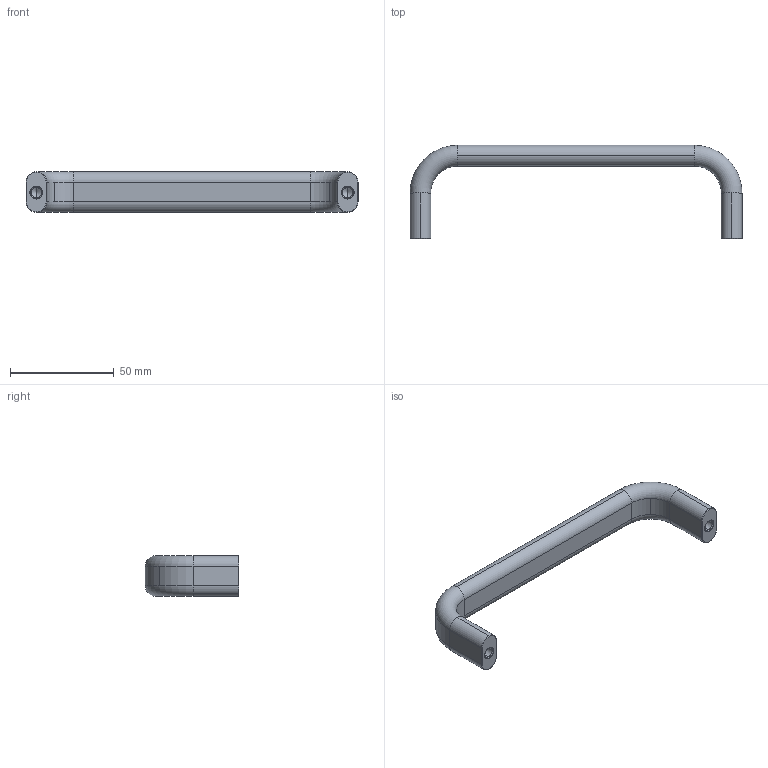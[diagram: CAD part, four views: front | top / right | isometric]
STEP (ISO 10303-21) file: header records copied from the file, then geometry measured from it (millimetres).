
FILE_DESCRIPTION((''),'2;1');
FILE_NAME('c:\wix\Knobs\7892\7892.W115.stp','2003-04-04T16:42:09',('joanc'),(''),'Autodesk Inventor (tm) 5.3','Autodesk Inventor (tm) 5.3','');
FILE_SCHEMA(('CONFIG_CONTROL_DESIGN'));
Length unit declared in the file: millimetre
Products named in the file (1): 7892.W115
Bounding box: 160 x 45 x 19.5 mm (x, y, z)
Volume: 36539.3 mm3; surface area: 11682.3 mm2
Topology: 1 solids, 1 shells, 72 faces, 166 edges, 94 vertices
Faces by surface type: cylinder 36, torus 16, cone 12, plane 8
Entity records: 2105 total; most frequent: DIRECTION 408, CARTESIAN_POINT 329, ORIENTED_EDGE 324, AXIS2_PLACEMENT_3D 173, EDGE_CURVE 162, CIRCLE 100, VERTEX_POINT 94, EDGE_LOOP 74
